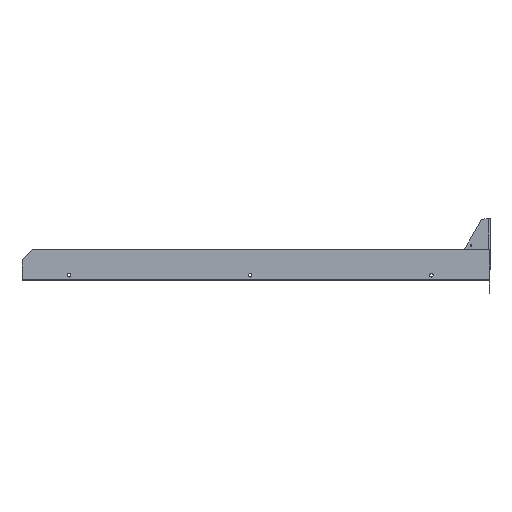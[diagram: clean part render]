
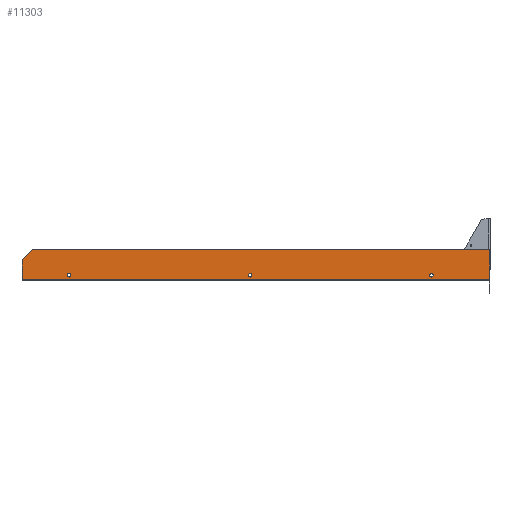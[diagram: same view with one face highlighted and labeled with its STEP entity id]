
A CAD part, left-side view. The second image highlights one B-rep face of the part: STEP entity #11303.
In plain terms, the highlighted planar face has unit normal (-1, 0, 0).
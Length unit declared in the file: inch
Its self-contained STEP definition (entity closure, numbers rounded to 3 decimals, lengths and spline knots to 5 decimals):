
#4 = DIRECTION ( 'NONE',  ( 0., 0., 1. ) ) ;
#192 = EDGE_CURVE ( 'NONE', #14688, #8266, #9131, .T. ) ;
#371 = CARTESIAN_POINT ( 'NONE',  ( 0., -34.1325, 1.336 ) ) ;
#433 = VERTEX_POINT ( 'NONE', #14185 ) ;
#863 = LINE ( 'NONE', #14472, #8543 ) ;
#1228 = CIRCLE ( 'NONE', #12858, 0.336 ) ;
#1337 = VECTOR ( 'NONE', #8914, 39.37008 ) ;
#1453 = EDGE_CURVE ( 'NONE', #14688, #6875, #3059, .T. ) ;
#1670 = DIRECTION ( 'NONE',  ( 0., 0., 1. ) ) ;
#1692 = CIRCLE ( 'NONE', #6193, 0.336 ) ;
#1733 = DIRECTION ( 'NONE',  ( -1., 0., 0. ) ) ;
#1766 = LINE ( 'NONE', #11918, #9958 ) ;
#1984 = CARTESIAN_POINT ( 'NONE',  ( 0., 36.3675, 1.336 ) ) ;
#2057 = CARTESIAN_POINT ( 'NONE',  ( 0., 45.525, 0. ) ) ;
#2237 = CIRCLE ( 'NONE', #14565, 0.336 ) ;
#2751 = VECTOR ( 'NONE', #13667, 39.37008 ) ;
#2931 = ORIENTED_EDGE ( 'NONE', *, *, #6778, .F. ) ;
#3059 = LINE ( 'NONE', #5573, #1337 ) ;
#3072 = FACE_BOUND ( 'NONE', #6860, .T. ) ;
#3142 = AXIS2_PLACEMENT_3D ( 'NONE', #14000, #3975, #1670 ) ;
#3254 = CARTESIAN_POINT ( 'NONE',  ( 0., -34.1325, 1. ) ) ;
#3372 = EDGE_CURVE ( 'NONE', #12095, #433, #1692, .T. ) ;
#3438 = VERTEX_POINT ( 'NONE', #14167 ) ;
#3975 = DIRECTION ( 'NONE',  ( -1., 0., 0. ) ) ;
#4093 = AXIS2_PLACEMENT_3D ( 'NONE', #7686, #1733, #9681 ) ;
#4256 = FACE_BOUND ( 'NONE', #7904, .T. ) ;
#4535 = CARTESIAN_POINT ( 'NONE',  ( 0., 43.525, 6. ) ) ;
#4570 = AXIS2_PLACEMENT_3D ( 'NONE', #3254, #5408, #5330 ) ;
#4682 = ORIENTED_EDGE ( 'NONE', *, *, #192, .F. ) ;
#4745 = EDGE_CURVE ( 'NONE', #11151, #8266, #1766, .T. ) ;
#4997 = EDGE_CURVE ( 'NONE', #9703, #11151, #863, .T. ) ;
#5063 = DIRECTION ( 'NONE',  ( 0., 0., -1. ) ) ;
#5212 = EDGE_CURVE ( 'NONE', #3438, #9211, #9530, .T. ) ;
#5286 = EDGE_CURVE ( 'NONE', #9703, #6875, #8732, .T. ) ;
#5330 = DIRECTION ( 'NONE',  ( 0., 0., 1. ) ) ;
#5408 = DIRECTION ( 'NONE',  ( -1., 0., 0. ) ) ;
#5573 = CARTESIAN_POINT ( 'NONE',  ( 0., 43.525, 6. ) ) ;
#5577 = CARTESIAN_POINT ( 'NONE',  ( 0., 45.525, 6. ) ) ;
#5587 = CARTESIAN_POINT ( 'NONE',  ( 0., -34.1325, 1. ) ) ;
#5656 = EDGE_LOOP ( 'NONE', ( #4682, #5724, #8377, #10411, #13476 ) ) ;
#5724 = ORIENTED_EDGE ( 'NONE', *, *, #1453, .T. ) ;
#5743 = EDGE_CURVE ( 'NONE', #9211, #3438, #8357, .T. ) ;
#5769 = CARTESIAN_POINT ( 'NONE',  ( 0., 36.3675, 1. ) ) ;
#5975 = VECTOR ( 'NONE', #8801, 39.37008 ) ;
#6172 = EDGE_LOOP ( 'NONE', ( #9426, #2931 ) ) ;
#6193 = AXIS2_PLACEMENT_3D ( 'NONE', #12522, #10366, #11550 ) ;
#6696 = EDGE_CURVE ( 'NONE', #14374, #14496, #11895, .T. ) ;
#6778 = EDGE_CURVE ( 'NONE', #433, #12095, #1228, .T. ) ;
#6860 = EDGE_LOOP ( 'NONE', ( #13715, #10035 ) ) ;
#6875 = VERTEX_POINT ( 'NONE', #13644 ) ;
#6887 = DIRECTION ( 'NONE',  ( 0., 0., 1. ) ) ;
#7213 = AXIS2_PLACEMENT_3D ( 'NONE', #14140, #7610, #5063 ) ;
#7610 = DIRECTION ( 'NONE',  ( 1., 0., 0. ) ) ;
#7686 = CARTESIAN_POINT ( 'NONE',  ( 0., 1.1175, 1. ) ) ;
#7824 = ORIENTED_EDGE ( 'NONE', *, *, #6696, .F. ) ;
#7904 = EDGE_LOOP ( 'NONE', ( #9443, #7824 ) ) ;
#8266 = VERTEX_POINT ( 'NONE', #12886 ) ;
#8357 = CIRCLE ( 'NONE', #4093, 0.336 ) ;
#8377 = ORIENTED_EDGE ( 'NONE', *, *, #5286, .F. ) ;
#8543 = VECTOR ( 'NONE', #12138, 39.37008 ) ;
#8636 = FACE_BOUND ( 'NONE', #6172, .T. ) ;
#8668 = DIRECTION ( 'NONE',  ( 0., 0., 1. ) ) ;
#8732 = LINE ( 'NONE', #2057, #5975 ) ;
#8801 = DIRECTION ( 'NONE',  ( 0., 0., 1. ) ) ;
#8914 = DIRECTION ( 'NONE',  ( 0., 0.707, -0.707 ) ) ;
#8952 = CARTESIAN_POINT ( 'NONE',  ( 0., 45.525, 0.208 ) ) ;
#9131 = LINE ( 'NONE', #5577, #2751 ) ;
#9211 = VERTEX_POINT ( 'NONE', #9320 ) ;
#9320 = CARTESIAN_POINT ( 'NONE',  ( 0., 1.1175, 0.664 ) ) ;
#9426 = ORIENTED_EDGE ( 'NONE', *, *, #3372, .F. ) ;
#9443 = ORIENTED_EDGE ( 'NONE', *, *, #11394, .F. ) ;
#9530 = CIRCLE ( 'NONE', #3142, 0.336 ) ;
#9681 = DIRECTION ( 'NONE',  ( 0., 0., 1. ) ) ;
#9703 = VERTEX_POINT ( 'NONE', #8952 ) ;
#9958 = VECTOR ( 'NONE', #8668, 39.37008 ) ;
#10035 = ORIENTED_EDGE ( 'NONE', *, *, #5743, .F. ) ;
#10366 = DIRECTION ( 'NONE',  ( -1., 0., 0. ) ) ;
#10411 = ORIENTED_EDGE ( 'NONE', *, *, #4997, .T. ) ;
#10925 = FACE_OUTER_BOUND ( 'NONE', #5656, .T. ) ;
#11151 = VERTEX_POINT ( 'NONE', #12792 ) ;
#11303 = ADVANCED_FACE ( 'NONE', ( #8636, #4256, #3072, #10925 ), #11886, .F. ) ;
#11394 = EDGE_CURVE ( 'NONE', #14496, #14374, #2237, .T. ) ;
#11550 = DIRECTION ( 'NONE',  ( 0., 0., 1. ) ) ;
#11610 = DIRECTION ( 'NONE',  ( -1., 0., 0. ) ) ;
#11886 = PLANE ( 'NONE',  #7213 ) ;
#11895 = CIRCLE ( 'NONE', #4570, 0.336 ) ;
#11918 = CARTESIAN_POINT ( 'NONE',  ( 0., -45.525, 0. ) ) ;
#12095 = VERTEX_POINT ( 'NONE', #1984 ) ;
#12138 = DIRECTION ( 'NONE',  ( 0., -1., 0. ) ) ;
#12522 = CARTESIAN_POINT ( 'NONE',  ( 0., 36.3675, 1. ) ) ;
#12552 = DIRECTION ( 'NONE',  ( -1., 0., 0. ) ) ;
#12792 = CARTESIAN_POINT ( 'NONE',  ( 0., -45.525, 0.208 ) ) ;
#12858 = AXIS2_PLACEMENT_3D ( 'NONE', #5769, #11610, #6887 ) ;
#12886 = CARTESIAN_POINT ( 'NONE',  ( 0., -45.525, 6. ) ) ;
#13194 = CARTESIAN_POINT ( 'NONE',  ( 0., -34.1325, 0.664 ) ) ;
#13476 = ORIENTED_EDGE ( 'NONE', *, *, #4745, .T. ) ;
#13644 = CARTESIAN_POINT ( 'NONE',  ( 0., 45.525, 4. ) ) ;
#13667 = DIRECTION ( 'NONE',  ( 0., -1., 0. ) ) ;
#13715 = ORIENTED_EDGE ( 'NONE', *, *, #5212, .F. ) ;
#14000 = CARTESIAN_POINT ( 'NONE',  ( 0., 1.1175, 1. ) ) ;
#14140 = CARTESIAN_POINT ( 'NONE',  ( 0., 45.525, 0. ) ) ;
#14167 = CARTESIAN_POINT ( 'NONE',  ( 0., 1.1175, 1.336 ) ) ;
#14185 = CARTESIAN_POINT ( 'NONE',  ( 0., 36.3675, 0.664 ) ) ;
#14374 = VERTEX_POINT ( 'NONE', #13194 ) ;
#14472 = CARTESIAN_POINT ( 'NONE',  ( 0., 45.525, 0.208 ) ) ;
#14496 = VERTEX_POINT ( 'NONE', #371 ) ;
#14565 = AXIS2_PLACEMENT_3D ( 'NONE', #5587, #12552, #4 ) ;
#14688 = VERTEX_POINT ( 'NONE', #4535 ) ;
